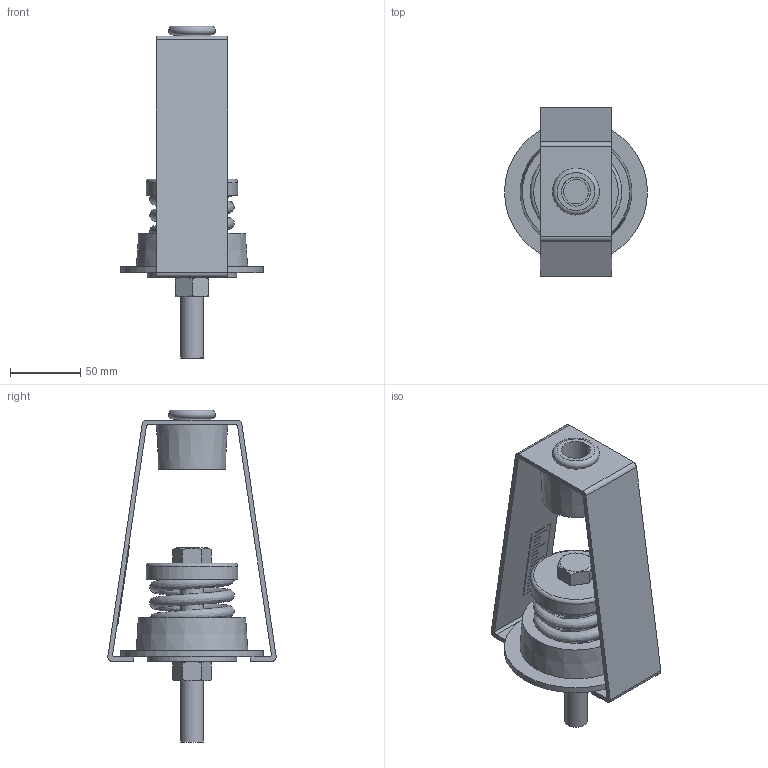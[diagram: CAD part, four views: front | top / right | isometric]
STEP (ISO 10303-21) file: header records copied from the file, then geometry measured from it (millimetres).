
FILE_DESCRIPTION((''),'2;1');
FILE_NAME('C:\2012_Work\Designs\HANGER BOXES\30N\PC30N-B-540.stp','2013-10-16T10:59:43',('KShiels'),(''),'Autodesk Inventor 2012','Autodesk Inventor 2012','');
FILE_SCHEMA(('AUTOMOTIVE_DESIGN { 1 0 10303 214 1 1 1 1 }'));
Length unit declared in the file: inch
Products named in the file (18): PC30N-B-540; 30N-B-540pc; 30N-B_W.O; 30N-B_HANGER_FRAME_ASSEM; A-20557-4B; A-20557-4A; A-8588-3R LDS HANGER CUP B; A-8588-3R HANGER CUP B; A-8588-3R WASHER B; A-20495-7N; A-20495-7A; A-20495-7B; A-3268-5 B STEEL CUP; SPRING 30-540 PC (YELLOW); BOLT 0.625-11 x 5in; Hex Nut - Inch 5/8 - 11; WASHER HANGER 2.5od 0.65625id A-31973; PC SCALE
Assembly tree (17 placements, depth 5):
  PC30N-B-540
    30N-B-540pc
      30N-B_W.O
        30N-B_HANGER_FRAME_ASSEM
          A-20557-4B
          A-20557-4A
        A-8588-3R LDS HANGER CUP B
          A-8588-3R HANGER CUP B
          A-8588-3R WASHER B
        A-20495-7N
          A-20495-7A
          A-20495-7B
        A-3268-5 B STEEL CUP
      SPRING 30-540 PC (YELLOW)
    BOLT 0.625-11 x 5in
    Hex Nut - Inch 5/8 - 11
    WASHER HANGER 2.5od 0.65625id A-31973
    PC SCALE
Bounding box: 101.6 x 119.64 x 235.83 mm (x, y, z)
Volume: 303837.9 mm3; surface area: 155893.2 mm2
Topology: 12 solids, 12 shells, 168 faces, 337 edges, 220 vertices
Faces by surface type: plane 98, cylinder 49, cone 17, torus 3, bspline 1
Full cylindrical faces by diameter (mm): 13.386 x1, 15.875 x1, 16.669 x1, 17.463 x1, 19.844 x1, 20.638 x1, 26.988 x3, 38.1 x1, 41.275 x1, 44.45 x4, 47.625 x2, 59.531 x1, 61.119 x1, 63.5 x1, 64.914 x1, 69.85 x2, 101.6 x1
Entity records: 5921 total; most frequent: CARTESIAN_POINT 1955, DIRECTION 792, ORIENTED_EDGE 600, AXIS2_PLACEMENT_3D 324, EDGE_CURVE 300, EDGE_LOOP 245, VERTEX_POINT 215, FACE_OUTER_BOUND 168
